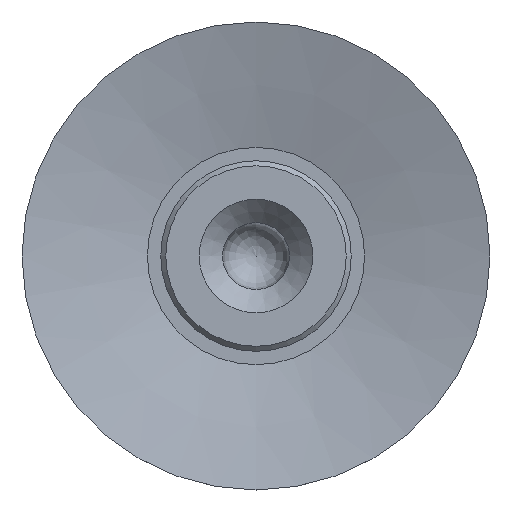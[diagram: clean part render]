
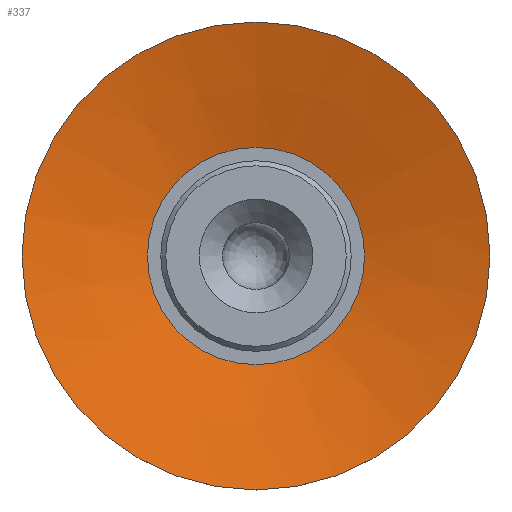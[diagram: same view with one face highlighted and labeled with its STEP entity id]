
A CAD part, top view. The second image highlights one B-rep face of the part: STEP entity #337.
In plain terms, the highlighted conical face has half-angle 75 degrees and reference radius 70 mm.
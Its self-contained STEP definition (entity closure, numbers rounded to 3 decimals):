
#337=ADVANCED_FACE('',(#894,#895),#896,.F.);
#894=FACE_BOUND('',#1753,.T.);
#895=FACE_OUTER_BOUND('',#1754,.T.);
#896=CONICAL_SURFACE('',#1755,70.,1.309);
#1753=EDGE_LOOP('',(#2852));
#1754=EDGE_LOOP('',(#2853));
#1755=AXIS2_PLACEMENT_3D('',#2854,#2855,#2856);
#2852=ORIENTED_EDGE('',*,*,#4389,.T.);
#2853=ORIENTED_EDGE('',*,*,#4386,.F.);
#2854=CARTESIAN_POINT('',(0.0,0.0,6.048));
#2855=DIRECTION('',(-0.0,0.,1.0));
#2856=DIRECTION('',(0.0,-1.0,0.));
#4386=EDGE_CURVE('',#4994,#4994,#4995,.T.);
#4389=EDGE_CURVE('',#4999,#4999,#5000,.T.);
#4994=VERTEX_POINT('',#5815);
#4995=CIRCLE('',#5816,70.);
#4999=VERTEX_POINT('',#5820);
#5000=CIRCLE('',#5821,32.5);
#5815=CARTESIAN_POINT('',(0.0,70.,6.048));
#5816=AXIS2_PLACEMENT_3D('',#6974,#6975,#6976);
#5820=CARTESIAN_POINT('',(0.0,32.5,-4.));
#5821=AXIS2_PLACEMENT_3D('',#6980,#6981,#6982);
#6974=CARTESIAN_POINT('',(0.0,0.0,6.048));
#6975=DIRECTION('',(-0.0,0.,-1.0));
#6976=DIRECTION('',(0.0,1.0,0.));
#6980=CARTESIAN_POINT('',(0.0,0.0,-4.));
#6981=DIRECTION('',(-0.0,0.,-1.0));
#6982=DIRECTION('',(0.0,1.0,0.));
